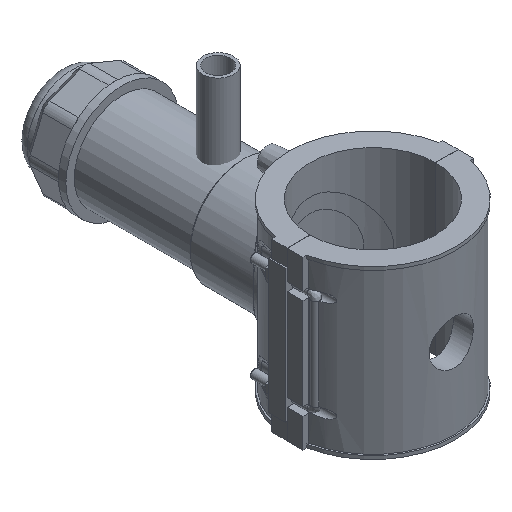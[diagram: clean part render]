
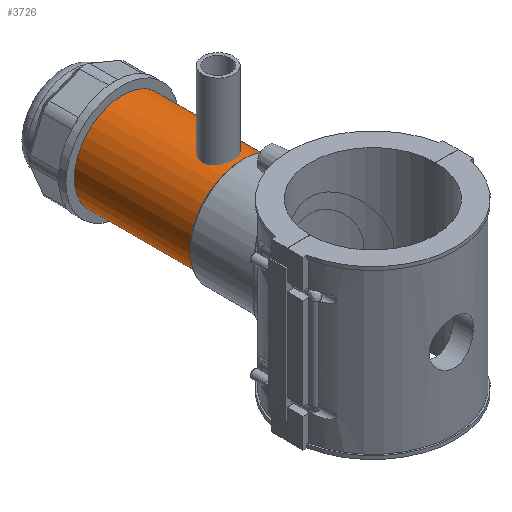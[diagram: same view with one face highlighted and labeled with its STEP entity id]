
A CAD part, isometric view. The second image highlights one B-rep face of the part: STEP entity #3726.
In plain terms, the highlighted cylindrical face has radius 33.928 mm (diameter 67.856 mm), a full revolution.
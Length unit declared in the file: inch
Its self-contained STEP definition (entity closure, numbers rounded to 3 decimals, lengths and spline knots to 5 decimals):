
#317=CIRCLE('',#4055,1.33574);
#318=CIRCLE('',#4056,1.33574);
#333=CIRCLE('',#4087,1.33574);
#334=CIRCLE('',#4088,1.33574);
#548=FACE_OUTER_BOUND('',#774,.T.);
#774=EDGE_LOOP('',(#3440,#3441,#3442,#3443,#3444,#3445));
#1100=LINE('',#7836,#1420);
#1420=VECTOR('',#5091,1.33574);
#1818=VERTEX_POINT('',#7770);
#1819=VERTEX_POINT('',#7771);
#1835=VERTEX_POINT('',#7832);
#1836=VERTEX_POINT('',#7833);
#2345=EDGE_CURVE('',#1818,#1819,#317,.T.);
#2346=EDGE_CURVE('',#1819,#1818,#318,.T.);
#2374=EDGE_CURVE('',#1835,#1836,#333,.T.);
#2375=EDGE_CURVE('',#1836,#1835,#334,.T.);
#2376=EDGE_CURVE('',#1836,#1819,#1100,.T.);
#3440=ORIENTED_EDGE('',*,*,#2374,.F.);
#3441=ORIENTED_EDGE('',*,*,#2375,.F.);
#3442=ORIENTED_EDGE('',*,*,#2376,.T.);
#3443=ORIENTED_EDGE('',*,*,#2346,.T.);
#3444=ORIENTED_EDGE('',*,*,#2345,.T.);
#3445=ORIENTED_EDGE('',*,*,#2376,.F.);
#3525=CYLINDRICAL_SURFACE('',#4086,1.33574);
#3726=ADVANCED_FACE('',(#548),#3525,.T.);
#4055=AXIS2_PLACEMENT_3D('',#7772,#5010,#5011);
#4056=AXIS2_PLACEMENT_3D('',#7773,#5012,#5013);
#4086=AXIS2_PLACEMENT_3D('',#7831,#5085,#5086);
#4087=AXIS2_PLACEMENT_3D('',#7834,#5087,#5088);
#4088=AXIS2_PLACEMENT_3D('',#7835,#5089,#5090);
#5010=DIRECTION('center_axis',(0.,1.,0.));
#5011=DIRECTION('ref_axis',(1.,0.,0.));
#5012=DIRECTION('center_axis',(0.,1.,0.));
#5013=DIRECTION('ref_axis',(1.,0.,0.));
#5085=DIRECTION('center_axis',(0.,1.,0.));
#5086=DIRECTION('ref_axis',(0.,0.,1.));
#5087=DIRECTION('center_axis',(0.,1.,0.));
#5088=DIRECTION('ref_axis',(1.,0.,0.));
#5089=DIRECTION('center_axis',(0.,1.,0.));
#5090=DIRECTION('ref_axis',(1.,0.,0.));
#5091=DIRECTION('',(0.,-1.,0.));
#7770=CARTESIAN_POINT('',(0.,3.65853,1.33574));
#7771=CARTESIAN_POINT('',(0.,3.65853,-1.33574));
#7772=CARTESIAN_POINT('Origin',(0.,3.65853,0.));
#7773=CARTESIAN_POINT('Origin',(0.,3.65853,0.));
#7831=CARTESIAN_POINT('Origin',(0.,5.31605,0.));
#7832=CARTESIAN_POINT('',(0.,6.97356,1.33574));
#7833=CARTESIAN_POINT('',(0.,6.97356,-1.33574));
#7834=CARTESIAN_POINT('Origin',(0.,6.97356,0.));
#7835=CARTESIAN_POINT('Origin',(0.,6.97356,0.));
#7836=CARTESIAN_POINT('',(0.,5.31605,-1.33574));
